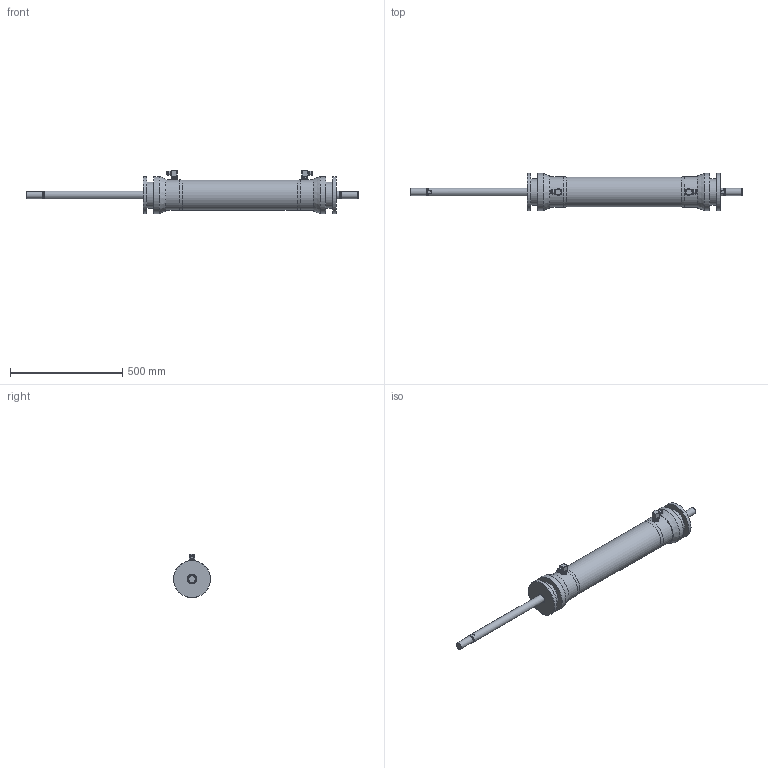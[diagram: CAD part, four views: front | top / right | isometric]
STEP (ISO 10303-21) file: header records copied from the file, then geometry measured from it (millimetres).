
FILE_DESCRIPTION(/* description */ (''),/* implementation_level */ '2;1');
FILE_NAME(/* name */ 'C:\STP.CR\TDA-71_Simplify_1 Rev1.stp',/* time_stamp */ '2021-11-03T12:50:41+00:00',/* author */ ('AL'),/* organization */ (''),/* preprocessor_version */ 'ST-DEVELOPER v18.1',/* originating_system */ 'Autodesk Inventor 2022',/* authorisation */ '');
FILE_SCHEMA (('AUTOMOTIVE_DESIGN { 1 0 10303 214 3 1 1 }'));
Length unit declared in the file: millimetre
Products named in the file (1): TDA-71_Simplify_1
Bounding box: 1480.5 x 165.4 x 192.8 mm (x, y, z)
Volume: 13377201.8 mm3; surface area: 567925.7 mm2
Topology: 1 solids, 1 shells, 209 faces, 437 edges, 262 vertices
Faces by surface type: plane 88, cylinder 59, cone 38, torus 24
Full cylindrical faces by diameter (mm): 18.01 x4, 18.9 x2, 19.01 x2, 19.11 x2, 19.9 x2, 20.9 x4, 27.8 x4, 29.299 x2, 31.699 x2, 35 x2, 37 x2, 39 x2, 43 x2, 43.6 x2, 116 x2, 133.4 x1, 136.4 x2, 165.4 x4
Entity records: 6048 total; most frequent: CARTESIAN_POINT 1305, DIRECTION 983, ORIENTED_EDGE 874, EDGE_CURVE 437, AXIS2_PLACEMENT_3D 402, VERTEX_POINT 262, EDGE_LOOP 241, STYLED_ITEM 210
